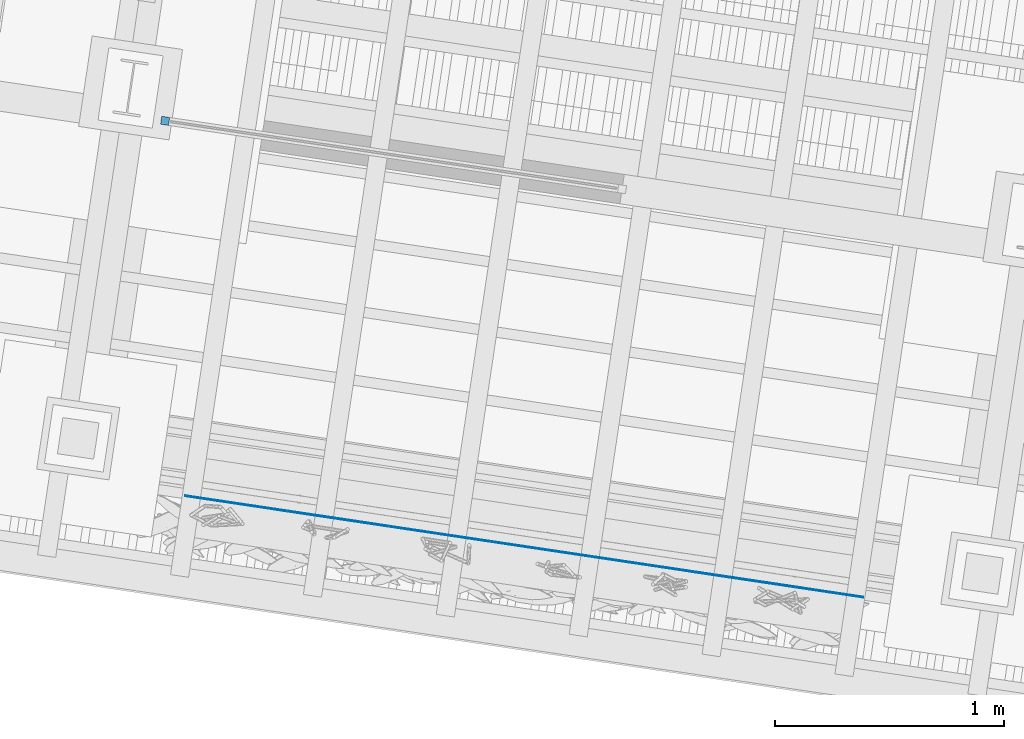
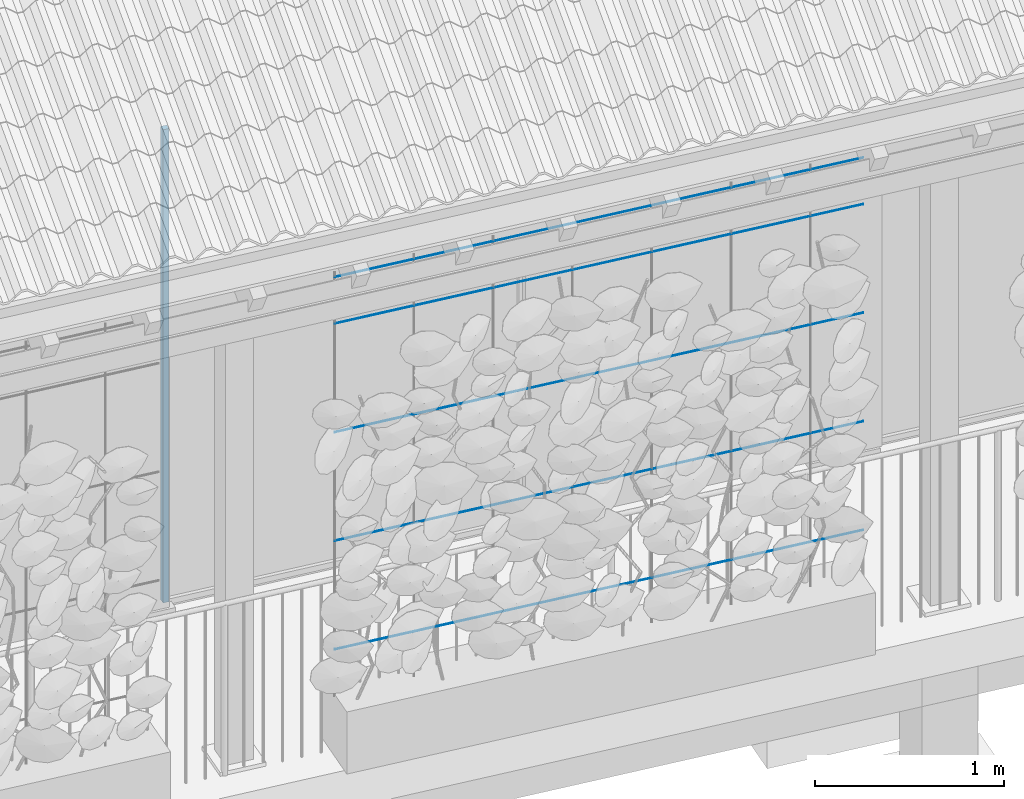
# One storey, part 74 of 131: 6 members, 1 element without a shape of its own.
"""IFC4 building model written with IfcOpenShell, lengths in metres."""

from ifc_helpers import new_model, si_unit, direction, frame, origin_with_axes, place, context, subcontext, project, spatial, rectangle, circle, extrude, material, material_profile, profile_set, profile_usage, type_object, element, aggregate, save


model = new_model("IFC4")

# Units and contexts
model_context = context("Model", 3, precision=1e-05, world=origin_with_axes(), true_north=direction((0.0, 1.0)))
body_context = subcontext(model_context, "Body", "Model", "MODEL_VIEW")
ifc_project = project(units=[si_unit("AREAUNIT", "SQUARE_METRE"), si_unit("VOLUMEUNIT", "CUBIC_METRE"), si_unit("LENGTHUNIT", "METRE")], contexts=[model_context])

# Site, building, storey
site_placement = place(None, origin_with_axes())
site = spatial("IfcSite", under=ifc_project, at=site_placement, Name="Lares · Rua das Mercês · artigo 4771")
building_placement = place(site_placement, frame((15.0, 9.7, 14.65), z_axis=(0.0, 0.0, 1.0), x_axis=(0.989015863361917, -0.147809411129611, 0.0)))
building = spatial("IfcBuilding", under=site, at=building_placement, Name="Casa Sobreposta")
storey_placement = place(building_placement, origin_with_axes())
storey = spatial("IfcBuildingStorey", under=building, at=storey_placement, Name="00 · Habitação e estacionamento", Elevation=14.65)

# Member
ifc_material_1 = material(Name="Aço pintado / Stahl lackiert", Category="steel")
ifc_material_profile_1 = material_profile(ifc_material_1, rectangle(XDim=0.035, YDim=0.035))
ifc_profile_set_1 = profile_set([ifc_material_profile_1], Name="R0.035")
ifc_profile_usage_1 = profile_usage(ifc_profile_set_1)
member_type_1 = type_object("IfcMemberType", Name="R0.035 / steel", PredefinedType="NOTDEFINED", material=ifc_profile_set_1)
member_1_placement = place(storey_placement, frame((16.1706666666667, 0.0, 0.0), z_axis=(0.0, 0.0, 1.0), x_axis=(1.0, 0.0, 0.0)))
element("IfcMember", 1, at=member_1_placement, inside=storey, type_object=member_type_1, material=ifc_profile_usage_1, Name="Folha de correr sul 8 · montante", context=body_context, shape_type="SweptSolid", body=[
    extrude(rectangle(XDim=0.035, YDim=0.035), origin_with_axes(), (0.0, 0.0, 1.0), 3.05),
])

# Assembly, members
assembly_placement = place(storey_placement, origin_with_axes())
assembly = element("IfcElementAssembly", 2, at=assembly_placement, inside=storey, Name="Fachada sul e pátio · estrutura e trepadeiras", ObjectType="LIVING_SHADE_TRELLIS", PredefinedType="USERDEFINED")
ifc_material_2 = material(Name="Aço galvanizado / Stahl verzinkt", Category="steel")
ifc_material_profile_2 = material_profile(ifc_material_2, circle(Radius=0.002))
ifc_profile_set_2 = profile_set([ifc_material_profile_2], Name="D0.004")
ifc_profile_usage_2 = profile_usage(ifc_profile_set_2)
member_type_2 = type_object("IfcMemberType", Name="D0.004 / galvanized", PredefinedType="NOTDEFINED", material=ifc_profile_set_2)
member_2_placement = place(assembly_placement, frame((16.5, -1.61, 0.65), z_axis=(1.0, 0.0, 0.0), x_axis=(0.0, -1.0, 0.0)))
member_2 = element("IfcMember", 3, at=member_2_placement, type_object=member_type_2, material=ifc_profile_usage_2, Name="Trepadeiras · fio horizontal", context=body_context, shape_type="SweptSolid", body=[
    extrude(circle(Radius=0.002), origin_with_axes(), (0.0, 0.0, 1.0), 3.0),
])
ifc_profile_usage_3 = profile_usage(ifc_profile_set_2)
member_3_placement = place(assembly_placement, frame((16.5, -1.61, 1.35), z_axis=(1.0, 0.0, 0.0), x_axis=(0.0, -1.0, 0.0)))
member_3 = element("IfcMember", 4, at=member_3_placement, type_object=member_type_2, material=ifc_profile_usage_3, Name="Trepadeiras · fio horizontal", context=body_context, shape_type="SweptSolid", body=[
    extrude(circle(Radius=0.002), origin_with_axes(), (0.0, 0.0, 1.0), 3.0),
])
ifc_profile_usage_4 = profile_usage(ifc_profile_set_2)
member_4_placement = place(assembly_placement, frame((16.5, -1.61, 2.05), z_axis=(1.0, 0.0, 0.0), x_axis=(0.0, -1.0, 0.0)))
member_4 = element("IfcMember", 5, at=member_4_placement, type_object=member_type_2, material=ifc_profile_usage_4, Name="Trepadeiras · fio horizontal", context=body_context, shape_type="SweptSolid", body=[
    extrude(circle(Radius=0.002), origin_with_axes(), (0.0, 0.0, 1.0), 3.0),
])
ifc_profile_usage_5 = profile_usage(ifc_profile_set_2)
member_5_placement = place(assembly_placement, frame((16.5, -1.61, 2.75), z_axis=(1.0, 0.0, 0.0), x_axis=(0.0, -1.0, 0.0)))
member_5 = element("IfcMember", 6, at=member_5_placement, type_object=member_type_2, material=ifc_profile_usage_5, Name="Trepadeiras · fio horizontal", context=body_context, shape_type="SweptSolid", body=[
    extrude(circle(Radius=0.002), origin_with_axes(), (0.0, 0.0, 1.0), 3.0),
])
ifc_profile_usage_6 = profile_usage(ifc_profile_set_2)
member_6_placement = place(assembly_placement, frame((16.5, -1.61, 3.05), z_axis=(1.0, 0.0, 0.0), x_axis=(0.0, -1.0, 0.0)))
member_6 = element("IfcMember", 7, at=member_6_placement, type_object=member_type_2, material=ifc_profile_usage_6, Name="Trepadeiras · fio horizontal", context=body_context, shape_type="SweptSolid", body=[
    extrude(circle(Radius=0.002), origin_with_axes(), (0.0, 0.0, 1.0), 3.0),
])
aggregate(assembly, [member_2, member_3, member_4, member_5, member_6])

save(model, "model.ifc")
